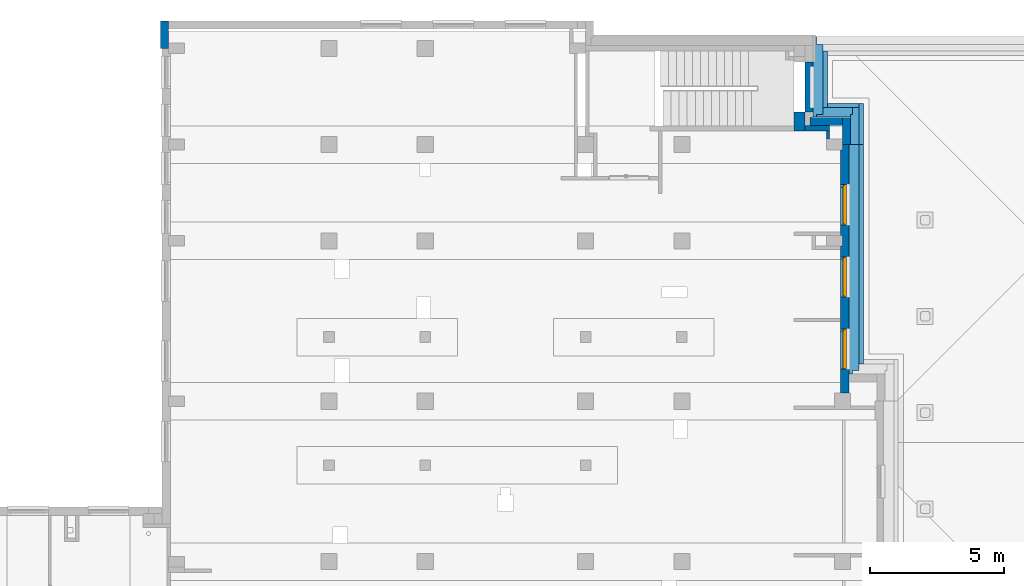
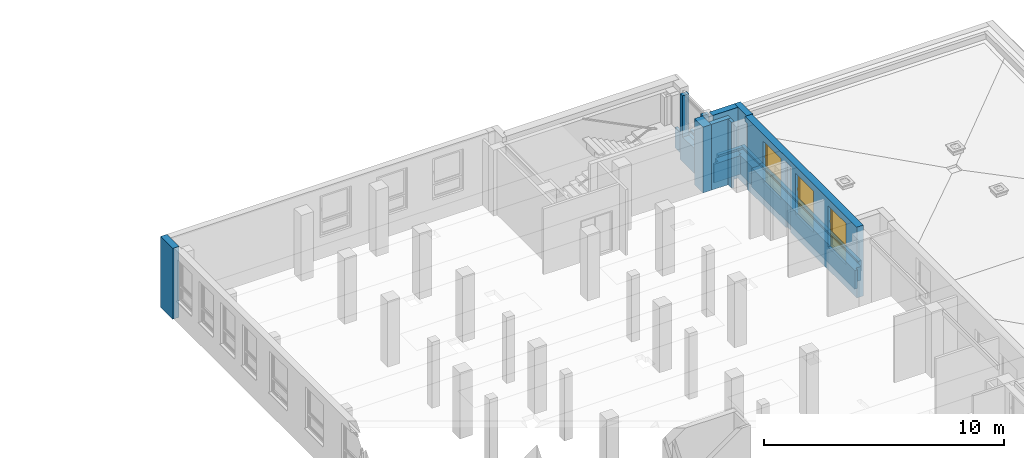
# One storey, part 29 of 50: 12 walls, 3 windows, 4 openings.
"""IFC4 building model written with IfcOpenShell, lengths in metres."""

from ifc_helpers import new_model, entity, si_unit, converted_unit, derived_unit, frame, frame_2d, origin, origin_with_axes, place, context, subcontext, project, spatial, polyline, rectangle, outline, extrude, clip, bounded_halfspace, closed_shell, open_shell, surface_model, source, transform, mapped, material, layer, layer_set, layer_usage, element, fill, save


model = new_model("IFC4")

# Units and contexts
model_context = context("Model", 3, precision=1e-05, world=origin())
body_context = subcontext(model_context, "Body", "Model", "MODEL_VIEW")
ifc_project = project(units=[si_unit("LENGTHUNIT", "METRE"), si_unit("AREAUNIT", "SQUARE_METRE"), si_unit("VOLUMEUNIT", "CUBIC_METRE"), si_unit("MASSUNIT", "GRAM", prefix="KILO"), converted_unit("PLANEANGLEUNIT", "DEGREE", entity("IfcPlaneAngleMeasure", 0.0174532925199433), si_unit("PLANEANGLEUNIT", "RADIAN"), dimensions=[0, 0, 0, 0, 0, 0, 0]), derived_unit("THERMALTRANSMITTANCEUNIT", [(si_unit("POWERUNIT", "WATT"), 1), (si_unit("THERMODYNAMICTEMPERATUREUNIT", "KELVIN"), -1), (si_unit("LENGTHUNIT", "METRE"), -2)]), derived_unit("VOLUMETRICFLOWRATEUNIT", [(si_unit("LENGTHUNIT", "METRE"), 3), (converted_unit("TIMEUNIT", "hour", entity("IfcTimeMeasure", 3600.0), si_unit("TIMEUNIT", "SECOND"), dimensions=[0, 0, 1, 0, 0, 0, 0]), -1), (si_unit("LENGTHUNIT", "METRE"), -1)])], contexts=[model_context])

# Site, building, storey
site_placement = place(None, origin())
site = spatial("IfcSite", under=ifc_project, at=site_placement, Name="3. ASŘ", CompositionType="ELEMENT")
building_placement = place(site_placement, origin())
building = spatial("IfcBuilding", under=site, at=building_placement, Name="Pavilon C", CompositionType="ELEMENT")
storey_placement = place(building_placement, frame((0.0, 0.0, 3.6)))
storey = spatial("IfcBuildingStorey", under=building, at=storey_placement, Name="Půdorys 2.NP", CompositionType="ELEMENT", Elevation=3.6)

# Wall, openings, windows
ifc_material_1 = material(Name="ZELEZOBETONOVÁ KCE")
ifc_layer_1 = layer(ifc_material_1, 0.32)
ifc_layer_set_1 = layer_set([ifc_layer_1])
ifc_layer_usage_1 = layer_usage(ifc_layer_set_1, "AXIS2", "POSITIVE", 0.0)
wall_1_placement = place(storey_placement, frame((50.2, 19.5, -0.1), z_axis=(0.0, 0.0, 1.0), x_axis=(0.0, 1.0, 0.0)))
wall_1 = element("IfcWall", 1, at=wall_1_placement, inside=storey, material=ifc_layer_usage_1, Name="ZELEZOBETONOVÁ KCE", context=body_context, shape_type="Clipping", body=[
    clip(clip(extrude(rectangle(XDim=9.3, YDim=0.32, at=frame_2d((4.65, 0.16), x_axis=(1.0, 0.0))), origin_with_axes(), (0.0, 0.0, 1.0), 3.6), bounded_halfspace(frame((9.2, 0.285, 3.35), z_axis=(0.0, 0.0, 1.0), x_axis=(-5.19711258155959e-14, 1.0, 0.0)), True, origin_with_axes(), polyline([(9.3, 0.25), (9.3, 0.32), (9.1, 0.32), (9.1, 0.25), (9.3, 0.25)]))), bounded_halfspace(frame((5.7, 0.285, 3.35), z_axis=(0.0, 0.0, 1.0), x_axis=(0.0, 1.0, 0.0)), True, origin_with_axes(), polyline([(5.9, 0.25), (5.9, 0.32), (5.5, 0.32), (5.5, 0.25), (5.9, 0.25)]))),
])
opening_1_placement = place(wall_1_placement, frame((6.29999999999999, 0.0, 1.15), z_axis=(0.0, 1.0, 0.0), x_axis=(0.0, 0.0, 1.0)))
opening_1 = element("IfcOpeningElement", 2, at=opening_1_placement, cuts=wall_1, Name="Okenní otvor", ObjectType="Opening", context=body_context, shape_type="SweptSolid", body=[
    extrude(outline(polyline([(0.0, 1.5), (2.1, 1.5), (2.1, 0.0), (0.0, 0.0), (0.0, 1.5)])), origin_with_axes(), (0.0, 0.0, 1.0), 0.32),
])
opening_2_placement = place(wall_1_placement, frame((3.59999999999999, 0.0, 1.15), z_axis=(0.0, 1.0, 0.0), x_axis=(0.0, 0.0, 1.0)))
opening_2 = element("IfcOpeningElement", 3, at=opening_2_placement, cuts=wall_1, Name="Okenní otvor", ObjectType="Opening", context=body_context, shape_type="SweptSolid", body=[
    extrude(outline(polyline([(0.0, 1.5), (2.1, 1.5), (2.1, 0.0), (0.0, 0.0), (0.0, 1.5)])), origin_with_axes(), (0.0, 0.0, 1.0), 0.32),
])
opening_3_placement = place(wall_1_placement, frame((0.899999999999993, 0.0, 1.15), z_axis=(0.0, 1.0, 0.0), x_axis=(0.0, 0.0, 1.0)))
opening_3 = element("IfcOpeningElement", 4, at=opening_3_placement, cuts=wall_1, Name="Okenní otvor", ObjectType="Opening", context=body_context, shape_type="SweptSolid", body=[
    extrude(outline(polyline([(0.0, 1.5), (2.1, 1.5), (2.1, 0.0), (0.0, 0.0), (0.0, 1.5)])), origin_with_axes(), (0.0, 0.0, 1.0), 0.32),
])
shared_shape = source(origin_with_axes(), body_context, "Body", "SurfaceModel", [
    surface_model("IfcShellBasedSurfaceModel", [(0.0, 0.182, 2.1), (0.0, 0.182, -5.63337527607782e-18), (0.08, 0.182, -5.63337527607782e-18), (0.08, 0.182, 2.1), (0.0, 0.0899999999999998, 5.63337527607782e-18), (0.0, 0.0900000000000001, 2.1), (0.08, 0.0900000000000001, 2.1), (0.08, 0.0899999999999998, 5.63337527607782e-18)], [closed_shell([[[0, 1, 2, 3]], [[4, 5, 6, 7]], [[1, 0, 5, 4]], [[2, 1, 4, 7]], [[3, 2, 7, 6]], [[0, 3, 6, 5]]], orient=[[False], [False], [False], [False], [False], [False]])]),
    surface_model("IfcShellBasedSurfaceModel", [(1.42, 0.182, 2.1), (1.42, 0.182, -5.63337527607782e-18), (1.5, 0.182, -5.63337527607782e-18), (1.5, 0.182, 2.1), (1.42, 0.0899999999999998, 5.63337527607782e-18), (1.42, 0.0900000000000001, 2.1), (1.5, 0.0900000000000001, 2.1), (1.5, 0.0899999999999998, 5.63337527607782e-18)], [closed_shell([[[0, 1, 2, 3]], [[4, 5, 6, 7]], [[1, 0, 5, 4]], [[2, 1, 4, 7]], [[3, 2, 7, 6]], [[0, 3, 6, 5]]], orient=[[False], [False], [False], [False], [False], [False]])]),
    surface_model("IfcShellBasedSurfaceModel", [(0.08, 0.182, 0.08), (0.08, 0.182, -5.63337527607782e-18), (1.42, 0.182, -5.63337527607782e-18), (1.42, 0.182, 0.08), (0.08, 0.0899999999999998, 5.63337527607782e-18), (0.08, 0.0899999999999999, 0.08), (1.42, 0.0899999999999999, 0.08), (1.42, 0.0899999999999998, 5.63337527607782e-18)], [closed_shell([[[0, 1, 2, 3]], [[4, 5, 6, 7]], [[1, 0, 5, 4]], [[2, 1, 4, 7]], [[3, 2, 7, 6]], [[0, 3, 6, 5]]], orient=[[False], [False], [False], [False], [False], [False]])]),
    surface_model("IfcShellBasedSurfaceModel", [(0.08, 0.182, 2.1), (0.08, 0.182, 2.02), (1.42, 0.182, 2.02), (1.42, 0.182, 2.1), (0.08, 0.0900000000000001, 2.02), (0.08, 0.0900000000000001, 2.1), (1.42, 0.0900000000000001, 2.1), (1.42, 0.0900000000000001, 2.02)], [closed_shell([[[0, 1, 2, 3]], [[4, 5, 6, 7]], [[1, 0, 5, 4]], [[2, 1, 4, 7]], [[3, 2, 7, 6]], [[0, 3, 6, 5]]], orient=[[False], [False], [False], [False], [False], [False]])]),
    surface_model("IfcShellBasedSurfaceModel", [(0.08, 0.182, 0.76), (0.08, 0.182, 0.68), (1.42, 0.182, 0.68), (1.42, 0.182, 0.76), (0.08, 0.0899999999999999, 0.68), (0.08, 0.0899999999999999, 0.76), (1.42, 0.0899999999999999, 0.76), (1.42, 0.0899999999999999, 0.68)], [closed_shell([[[0, 1, 2, 3]], [[4, 5, 6, 7]], [[1, 0, 5, 4]], [[2, 1, 4, 7]], [[3, 2, 7, 6]], [[0, 3, 6, 5]]], orient=[[False], [False], [False], [False], [False], [False]])]),
    surface_model("IfcShellBasedSurfaceModel", [(0.05, 0.145, 0.71), (0.05, 0.145, 0.05), (0.13, 0.145, 0.05), (0.13, 0.145, 0.71), (0.05, 0.0599999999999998, 0.05), (0.05, 0.0599999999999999, 0.71), (0.13, 0.0599999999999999, 0.71), (0.13, 0.0599999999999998, 0.05)], [closed_shell([[[0, 1, 2, 3]], [[4, 5, 6, 7]], [[1, 0, 5, 4]], [[2, 1, 4, 7]], [[3, 2, 7, 6]], [[0, 3, 6, 5]]], orient=[[False], [False], [False], [False], [False], [False]])]),
    surface_model("IfcShellBasedSurfaceModel", [(1.37, 0.145, 0.71), (1.37, 0.145, 0.05), (1.45, 0.145, 0.05), (1.45, 0.145, 0.71), (1.37, 0.0599999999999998, 0.05), (1.37, 0.0599999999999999, 0.71), (1.45, 0.0599999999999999, 0.71), (1.45, 0.0599999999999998, 0.05)], [closed_shell([[[0, 1, 2, 3]], [[4, 5, 6, 7]], [[1, 0, 5, 4]], [[2, 1, 4, 7]], [[3, 2, 7, 6]], [[0, 3, 6, 5]]], orient=[[False], [False], [False], [False], [False], [False]])]),
    surface_model("IfcShellBasedSurfaceModel", [(0.13, 0.145, 0.13), (0.13, 0.145, 0.05), (1.37, 0.145, 0.05), (1.37, 0.145, 0.13), (0.13, 0.0599999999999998, 0.05), (0.13, 0.0599999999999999, 0.13), (1.37, 0.0599999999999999, 0.13), (1.37, 0.0599999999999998, 0.05)], [closed_shell([[[0, 1, 2, 3]], [[4, 5, 6, 7]], [[1, 0, 5, 4]], [[2, 1, 4, 7]], [[3, 2, 7, 6]], [[0, 3, 6, 5]]], orient=[[False], [False], [False], [False], [False], [False]])]),
    surface_model("IfcShellBasedSurfaceModel", [(0.13, 0.145, 0.71), (0.13, 0.145, 0.63), (1.37, 0.145, 0.63), (1.37, 0.145, 0.71), (0.13, 0.0599999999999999, 0.63), (0.13, 0.0599999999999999, 0.71), (1.37, 0.0599999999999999, 0.71), (1.37, 0.0599999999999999, 0.63)], [closed_shell([[[0, 1, 2, 3]], [[4, 5, 6, 7]], [[1, 0, 5, 4]], [[2, 1, 4, 7]], [[3, 2, 7, 6]], [[0, 3, 6, 5]]], orient=[[False], [False], [False], [False], [False], [False]])]),
    surface_model("IfcShellBasedSurfaceModel", [(0.05, 0.145, 2.05), (0.05, 0.145, 0.73), (0.13, 0.145, 0.73), (0.13, 0.145, 2.05), (0.05, 0.0599999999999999, 0.73), (0.05, 0.0600000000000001, 2.05), (0.13, 0.0600000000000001, 2.05), (0.13, 0.0599999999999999, 0.73)], [closed_shell([[[0, 1, 2, 3]], [[4, 5, 6, 7]], [[1, 0, 5, 4]], [[2, 1, 4, 7]], [[3, 2, 7, 6]], [[0, 3, 6, 5]]], orient=[[False], [False], [False], [False], [False], [False]])]),
    surface_model("IfcShellBasedSurfaceModel", [(1.37, 0.145, 2.05), (1.37, 0.145, 0.73), (1.45, 0.145, 0.73), (1.45, 0.145, 2.05), (1.37, 0.0599999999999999, 0.73), (1.37, 0.0600000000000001, 2.05), (1.45, 0.0600000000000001, 2.05), (1.45, 0.0599999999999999, 0.73)], [closed_shell([[[0, 1, 2, 3]], [[4, 5, 6, 7]], [[1, 0, 5, 4]], [[2, 1, 4, 7]], [[3, 2, 7, 6]], [[0, 3, 6, 5]]], orient=[[False], [False], [False], [False], [False], [False]])]),
    surface_model("IfcShellBasedSurfaceModel", [(0.13, 0.145, 0.81), (0.13, 0.145, 0.73), (1.37, 0.145, 0.73), (1.37, 0.145, 0.81), (0.13, 0.0599999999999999, 0.73), (0.13, 0.0599999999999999, 0.81), (1.37, 0.0599999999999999, 0.81), (1.37, 0.0599999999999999, 0.73)], [closed_shell([[[0, 1, 2, 3]], [[4, 5, 6, 7]], [[1, 0, 5, 4]], [[2, 1, 4, 7]], [[3, 2, 7, 6]], [[0, 3, 6, 5]]], orient=[[False], [False], [False], [False], [False], [False]])]),
    surface_model("IfcShellBasedSurfaceModel", [(0.13, 0.145, 2.05), (0.13, 0.145, 1.97), (1.37, 0.145, 1.97), (1.37, 0.145, 2.05), (0.13, 0.0600000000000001, 1.97), (0.13, 0.0600000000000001, 2.05), (1.37, 0.0600000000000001, 2.05), (1.37, 0.0600000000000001, 1.97)], [closed_shell([[[0, 1, 2, 3]], [[4, 5, 6, 7]], [[1, 0, 5, 4]], [[2, 1, 4, 7]], [[3, 2, 7, 6]], [[0, 3, 6, 5]]], orient=[[False], [False], [False], [False], [False], [False]])]),
    surface_model("IfcShellBasedSurfaceModel", [(0.0775, 0.06, 1.41), (0.0775, 0.06, 1.37), (0.1025, 0.06, 1.37), (0.1025, 0.06, 1.41), (0.0775, 0.05, 1.37), (0.0775, 0.05, 1.41), (0.1025, 0.05, 1.41), (0.1025, 0.05, 1.37)], [closed_shell([[[0, 1, 2, 3]], [[4, 5, 6, 7]], [[1, 0, 5, 4]], [[2, 1, 4, 7]], [[3, 2, 7, 6]], [[0, 3, 6, 5]]], orient=[[False], [False], [False], [False], [False], [False]])]),
    surface_model("IfcShellBasedSurfaceModel", [(0.1, 0.05, 1.39), (0.0986602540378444, 0.05, 1.395), (0.095, 0.05, 1.39866025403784), (0.09, 0.05, 1.4), (0.085, 0.05, 1.39866025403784), (0.0813397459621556, 0.05, 1.395), (0.08, 0.05, 1.39), (0.0813397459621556, 0.05, 1.385), (0.085, 0.05, 1.38133974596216), (0.09, 0.05, 1.38), (0.095, 0.05, 1.38133974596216), (0.0986602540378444, 0.05, 1.385), (0.1, 0.01, 1.39), (0.0986602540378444, 0.00500000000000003, 1.395), (0.095, 0.00133974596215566, 1.39866025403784), (0.09, 2.8421709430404e-17, 1.4), (0.085, 0.00133974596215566, 1.39866025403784), (0.0813397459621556, 0.00500000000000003, 1.395), (0.08, 0.01, 1.39), (0.0813397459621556, 0.015, 1.385), (0.085, 0.0186602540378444, 1.38133974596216), (0.09, 0.02, 1.38), (0.095, 0.0186602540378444, 1.38133974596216), (0.0986602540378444, 0.015, 1.385), (0.1, 0.01, 1.275), (0.0986602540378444, 0.005, 1.275), (0.095, 0.00133974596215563, 1.275), (0.09, 0.0, 1.275), (0.085, 0.00133974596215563, 1.275), (0.0813397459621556, 0.005, 1.275), (0.08, 0.01, 1.275), (0.0813397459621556, 0.015, 1.275), (0.085, 0.0186602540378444, 1.275), (0.09, 0.02, 1.275), (0.095, 0.0186602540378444, 1.275), (0.0986602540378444, 0.015, 1.275)], [open_shell([[[0, 1, 2, 3, 4, 5, 6, 7, 8, 9, 10, 11]], [[0, 12, 13, 1]], [[1, 13, 14, 2]], [[2, 14, 15, 3]], [[3, 15, 16, 4]], [[4, 16, 17, 5]], [[5, 17, 18, 6]], [[6, 18, 19, 7]], [[7, 19, 20, 8]], [[8, 20, 21, 9]], [[9, 21, 22, 10]], [[10, 22, 23, 11]], [[11, 23, 12, 0]], [[12, 24, 25, 13]], [[13, 25, 26, 14]], [[14, 26, 27, 15]], [[15, 27, 28, 16]], [[16, 28, 29, 17]], [[17, 29, 30, 18]], [[18, 30, 31, 19]], [[19, 31, 32, 20]], [[20, 32, 33, 21]], [[21, 33, 34, 22]], [[22, 34, 35, 23]], [[23, 35, 24, 12]]], orient=[[False], [False], [False], [False], [False], [False], [False], [False], [False], [False], [False], [False], [False], [False], [False], [False], [False], [False], [False], [False], [False], [False], [False], [False], [False]])]),
    surface_model("IfcShellBasedSurfaceModel", [(0.13, 0.1025, 0.13), (1.37, 0.1025, 0.13), (1.37, 0.1025, 0.63), (0.13, 0.1025, 0.63)], [open_shell([[[0, 1, 2, 3]]], orient=[[False]])]),
    surface_model("IfcShellBasedSurfaceModel", [(0.13, 0.1025, 0.81), (1.37, 0.1025, 0.81), (1.37, 0.1025, 1.97), (0.13, 0.1025, 1.97)], [open_shell([[[0, 1, 2, 3]]], orient=[[False]])]),
])
window_1_placement = place(opening_1_placement, frame((0.0, 1.49999999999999, 0.282000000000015), z_axis=(1.0, 0.0, 0.0), x_axis=(0.0, -1.0, 2.44929359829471e-16)))
window_1 = element("IfcWindow", 5, at=window_1_placement, inside=storey, Name="O06", OverallHeight=2.1, OverallWidth=1.5, PartitioningType="USERDEFINED", PredefinedType="WINDOW", context=body_context, shape_type="MappedRepresentation", body=[
    mapped(shared_shape, transform((0.0, 0.0, 0.0), x_axis=(1.0, 0.0, 0.0), y_axis=(0.0, 1.0, 0.0), z_axis=(0.0, 0.0, 1.0), scale=1.0)),
])
fill(opening_1, window_1)
window_2_placement = place(opening_2_placement, frame((0.0, 1.49999999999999, 0.282000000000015), z_axis=(1.0, 0.0, 0.0), x_axis=(0.0, -1.0, 2.44929359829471e-16)))
window_2 = element("IfcWindow", 6, at=window_2_placement, inside=storey, Name="O06", OverallHeight=2.1, OverallWidth=1.5, PartitioningType="USERDEFINED", PredefinedType="WINDOW", context=body_context, shape_type="MappedRepresentation", body=[
    mapped(shared_shape, transform((0.0, 0.0, 0.0), x_axis=(1.0, 0.0, 0.0), y_axis=(0.0, 1.0, 0.0), z_axis=(0.0, 0.0, 1.0), scale=1.0)),
])
fill(opening_2, window_2)
window_3_placement = place(opening_3_placement, frame((0.0, 1.49999999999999, 0.282000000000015), z_axis=(1.0, 0.0, 0.0), x_axis=(0.0, -1.0, 2.44929359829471e-16)))
window_3 = element("IfcWindow", 7, at=window_3_placement, inside=storey, Name="O06", OverallHeight=2.1, OverallWidth=1.5, PartitioningType="USERDEFINED", PredefinedType="WINDOW", context=body_context, shape_type="MappedRepresentation", body=[
    mapped(shared_shape, transform((0.0, 0.0, 0.0), x_axis=(1.0, 0.0, 0.0), y_axis=(0.0, 1.0, 0.0), z_axis=(0.0, 0.0, 1.0), scale=1.0)),
])
fill(opening_3, window_3)

# Walls
ifc_material_2 = material(Name="ZELEZOBETONOVÁ KCE")
ifc_layer_2 = layer(ifc_material_2, 0.3)
ifc_layer_set_2 = layer_set([ifc_layer_2])
ifc_layer_usage_2 = layer_usage(ifc_layer_set_2, "AXIS2", "POSITIVE", 0.0)
wall_2_placement = place(storey_placement, frame((50.25, 28.8, -0.1), z_axis=(0.0, 0.0, 1.0), x_axis=(0.0, 1.0, 0.0)))
element("IfcWall", 8, at=wall_2_placement, inside=storey, material=ifc_layer_usage_2, Name="ZELEZOBETONOVÁ KCE", context=body_context, shape_type="SweptSolid", body=[
    extrude(rectangle(XDim=1.02, YDim=0.3, at=frame_2d((0.51, 0.15), x_axis=(1.0, 0.0))), origin_with_axes(), (0.0, 0.0, 1.0), 3.6),
])
ifc_material_3 = material(Name="ZELEZOBETONOVÁ KCE")
ifc_layer_3 = layer(ifc_material_3, 0.3)
ifc_layer_set_3 = layer_set([ifc_layer_3])
ifc_layer_usage_3 = layer_usage(ifc_layer_set_3, "AXIS2", "POSITIVE", 0.0)
wall_3_placement = place(storey_placement, frame((24.75, 32.4, -0.1), z_axis=(0.0, 0.0, 1.0), x_axis=(0.0, 1.0, 0.0)))
element("IfcWall", 9, at=wall_3_placement, inside=storey, material=ifc_layer_usage_3, Name="ZELEZOBETONOVÁ KCE", context=body_context, shape_type="SweptSolid", body=[
    extrude(rectangle(XDim=1.02, YDim=0.3, at=frame_2d((0.51, 0.15), x_axis=(1.0, 0.0))), origin_with_axes(), (0.0, 0.0, 1.0), 3.6),
])
ifc_material_4 = material(Name="ZDIVO Z CDm")
ifc_layer_4 = layer(ifc_material_4, 0.22)
ifc_layer_set_4 = layer_set([ifc_layer_4])
ifc_layer_usage_4 = layer_usage(ifc_layer_set_4, "AXIS2", "POSITIVE", 0.0)
wall_4_placement = place(storey_placement, frame((48.55, 29.3, -0.1)))
element("IfcWall", 10, at=wall_4_placement, inside=storey, material=ifc_layer_usage_4, Name="ZDIVO Z CDm", context=body_context, shape_type="SweptSolid", body=[
    extrude(rectangle(XDim=0.925, YDim=0.22, at=frame_2d((0.4625, 0.11), x_axis=(1.0, 0.0))), origin_with_axes(), (0.0, 0.0, 1.0), 3.35),
])
ifc_material_5 = material(Name="ZDIVO Z CDm")
ifc_layer_5 = layer(ifc_material_5, 0.4)
ifc_layer_set_5 = layer_set([ifc_layer_5])
ifc_layer_usage_5 = layer_usage(ifc_layer_set_5, "AXIS2", "POSITIVE", 0.0)
wall_5_placement = place(storey_placement, frame((48.55, 29.3, -0.1), z_axis=(0.0, 0.0, 1.0), x_axis=(0.0, 1.0, 0.0)))
element("IfcWall", 11, at=wall_5_placement, inside=storey, material=ifc_layer_usage_5, Name="ZDIVO Z CDm", context=body_context, shape_type="SweptSolid", body=[
    extrude(rectangle(XDim=0.719999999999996, YDim=0.4, at=frame_2d((0.359999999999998, 0.2), x_axis=(1.0, 0.0))), origin_with_axes(), (0.0, 0.0, 1.0), 3.35),
])
ifc_material_6 = material(Name="ZDIVO Z CDm")
ifc_layer_6 = layer(ifc_material_6, 0.125)
ifc_layer_set_6 = layer_set([ifc_layer_6])
ifc_layer_usage_6 = layer_usage(ifc_layer_set_6, "AXIS2", "POSITIVE", 0.0)
wall_6_placement = place(storey_placement, frame((49.35, 29.3, -0.1), z_axis=(0.0, 0.0, 1.0), x_axis=(0.0, -1.0, 0.0)))
element("IfcWall", 12, at=wall_6_placement, inside=storey, material=ifc_layer_usage_6, Name="ZDIVO Z CDm", context=body_context, shape_type="SweptSolid", body=[
    extrude(rectangle(XDim=0.299999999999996, YDim=0.125, at=frame_2d((0.149999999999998, 0.0625), x_axis=(1.0, 0.0))), origin_with_axes(), (0.0, 0.0, 1.0), 3.35),
])
ifc_material_7 = material(Name="ZELEZOBETONOVÁ KCE")
ifc_layer_7 = layer(ifc_material_7, 0.3)
ifc_layer_set_7 = layer_set([ifc_layer_7])
ifc_layer_usage_7 = layer_usage(ifc_layer_set_7, "AXIS2", "POSITIVE", 0.0)
wall_7_placement = place(storey_placement, frame((49.95, 29.82, -0.1), z_axis=(0.0, 0.0, 1.0), x_axis=(-1.0, 0.0, 0.0)))
element("IfcWall", 13, at=wall_7_placement, inside=storey, material=ifc_layer_usage_7, Name="ZELEZOBETONOVÁ KCE", context=body_context, shape_type="SweptSolid", body=[
    extrude(rectangle(XDim=1.2, YDim=0.3, at=frame_2d((0.6, 0.15), x_axis=(1.0, 0.0))), origin_with_axes(), (0.0, 0.0, 1.0), 3.6),
])

# Wall, opening
ifc_material_8 = material(Name="YTONG 300")
ifc_layer_8 = layer(ifc_material_8, 0.3)
ifc_layer_set_8 = layer_set([ifc_layer_8])
ifc_layer_usage_8 = layer_usage(ifc_layer_set_8, "AXIS2", "POSITIVE", 0.0)
wall_8_placement = place(storey_placement, frame((48.85, 30.02, -0.1), z_axis=(0.0, 0.0, 1.0), x_axis=(0.0, 1.0, 0.0)))
wall_8 = element("IfcWall", 14, at=wall_8_placement, inside=storey, material=ifc_layer_usage_8, Name="YTONG 300", context=body_context, shape_type="SweptSolid", body=[
    extrude(rectangle(XDim=1.875, YDim=0.3, at=frame_2d((0.937500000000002, 0.15), x_axis=(1.0, 0.0))), origin_with_axes(), (0.0, 0.0, 1.0), 3.35),
])
opening_4_placement = place(wall_8_placement, frame((0.174999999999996, 0.0, 1.25), z_axis=(0.0, 1.0, 0.0), x_axis=(0.0, 0.0, 1.0)))
element("IfcOpeningElement", 15, at=opening_4_placement, cuts=wall_8, Name="Okenní otvor", ObjectType="Opening", context=body_context, shape_type="SweptSolid", body=[
    extrude(outline(polyline([(0.0, 1.5), (2.1, 1.5), (2.1, 0.0), (0.0, 0.0), (0.0, 1.5)])), origin_with_axes(), (0.0, 0.0, 1.0), 0.3),
])

# Walls
ifc_material_9 = material(Name="EPS")
ifc_layer_9 = layer(ifc_material_9, 0.13)
ifc_material_10 = material(Name="ZELEZOBETONOVÁ KCE")
ifc_layer_10 = layer(ifc_material_10, 0.25)
ifc_material_11 = material(Name="MINERÁLNÍ VATA")
ifc_layer_11 = layer(ifc_material_11, 0.16)
ifc_layer_set_9 = layer_set([ifc_layer_9, ifc_layer_10, ifc_layer_11])
ifc_layer_usage_9 = layer_usage(ifc_layer_set_9, "AXIS2", "POSITIVE", -0.13)
wall_9_placement = place(storey_placement, frame((50.2, 28.8, -0.2), z_axis=(0.0, 0.0, 1.0), x_axis=(0.0, -1.0, 0.0)))
element("IfcWall", 16, at=wall_9_placement, inside=storey, material=ifc_layer_usage_9, Name="MINERÁLNÍ VATA", context=body_context, shape_type="Clipping", body=[
    clip(clip(clip(extrude(outline(polyline([(-8.58, 0.0), (0.0, 0.0), (0.0, 0.13), (-0.13, 0.13), (-0.13, 0.38), (-0.38, 0.38), (-0.38, 0.54), (-8.58, 0.54), (-8.58, 0.0)])), frame((8.58, 0.0, 0.0), z_axis=(0.0, 0.0, 1.0), x_axis=(1.0, 0.0, 0.0)), (0.0, 0.0, 1.0), 1.05), bounded_halfspace(frame((4.225, 0.255, 0.25), z_axis=(0.0, 0.0, 1.0), x_axis=(0.0, -1.0, 0.0)), True, origin_with_axes(), polyline([(0.0, 0.38), (0.0, 0.13), (8.45, 0.13), (8.45, 0.38), (0.0, 0.38)]))), bounded_halfspace(frame((4.1, 0.46, 0.51), z_axis=(0.0, 0.0, 1.0), x_axis=(0.0, -1.0, 0.0)), True, origin_with_axes(), polyline([(0.0, 0.54), (0.0, 0.38), (8.2, 0.38), (8.2, 0.54), (0.0, 0.54)]))), bounded_halfspace(frame((6.03714285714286, 0.199999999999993, 0.95), z_axis=(0.0, 0.0, -1.0), x_axis=(1.0, 0.0, 0.0)), True, origin_with_axes(), polyline([(0.0, 0.0), (8.58, 0.0), (8.58, 0.13), (8.45, 0.13), (8.45, 0.38), (8.2, 0.38), (0.0, 0.38), (0.0, 0.0)]))),
])
ifc_material_12 = material(Name="EPS")
ifc_layer_12 = layer(ifc_material_12, 0.13)
ifc_material_13 = material(Name="ZELEZOBETONOVÁ KCE")
ifc_layer_13 = layer(ifc_material_13, 0.25)
ifc_material_14 = material(Name="MINERÁLNÍ VATA")
ifc_layer_14 = layer(ifc_material_14, 0.16)
ifc_layer_set_10 = layer_set([ifc_layer_12, ifc_layer_13, ifc_layer_14])
ifc_layer_usage_10 = layer_usage(ifc_layer_set_10, "AXIS2", "POSITIVE", -0.13)
wall_10_placement = place(storey_placement, frame((48.85, 32.85, -0.2), z_axis=(0.0, 0.0, 1.0), x_axis=(0.0, -1.0, 0.0)))
element("IfcWall", 17, at=wall_10_placement, inside=storey, material=ifc_layer_usage_10, Name="MINERÁLNÍ VATA", context=body_context, shape_type="Clipping", body=[
    clip(clip(clip(extrude(outline(polyline([(-3.02, 0.0), (0.0, 0.0), (0.0, 0.13), (-0.1, 0.13), (-0.1, 0.38), (-0.35, 0.38), (-0.35, 0.54), (-2.47, 0.54), (-2.47, 0.38), (-2.72, 0.38), (-2.72, 0.13), (-3.02, 0.13), (-3.02, 0.0)])), frame((3.02, 0.0, 0.0), z_axis=(0.0, 0.0, 1.0), x_axis=(1.0, 0.0, 0.0)), (0.0, 0.0, 1.0), 1.15), bounded_halfspace(frame((1.60999999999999, 0.255, 0.25), z_axis=(0.0, 0.0, 1.0), x_axis=(0.0, -1.0, 0.0)), True, origin_with_axes(), polyline([(0.3, 0.38), (0.3, 0.13), (2.91999999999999, 0.13), (2.91999999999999, 0.38), (0.3, 0.38)]))), bounded_halfspace(frame((1.60999999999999, 0.46, 0.51), z_axis=(0.0, 0.0, 1.0), x_axis=(0.0, -1.0, 0.0)), True, origin_with_axes(), polyline([(0.55, 0.54), (0.55, 0.38), (2.66999999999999, 0.38), (2.66999999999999, 0.54), (0.55, 0.54)]))), bounded_halfspace(frame((1.56999999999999, 0.203999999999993, 1.05), z_axis=(0.0, 0.0, -1.0), x_axis=(1.0, 0.0, 0.0)), True, origin_with_axes(), polyline([(0.0, 0.0), (3.02, 0.0), (3.02, 0.13), (2.91999999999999, 0.13), (2.91999999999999, 0.38), (2.66999999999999, 0.38), (0.55, 0.38), (0.3, 0.38), (0.3, 0.13), (0.0, 0.13), (0.0, 0.0)]))),
])
ifc_material_15 = material(Name="EPS")
ifc_layer_15 = layer(ifc_material_15, 0.1)
ifc_material_16 = material(Name="ZELEZOBETONOVÁ KCE")
ifc_layer_16 = layer(ifc_material_16, 0.25)
ifc_material_17 = material(Name="MINERÁLNÍ VATA")
ifc_layer_17 = layer(ifc_material_17, 0.16)
ifc_layer_set_11 = layer_set([ifc_layer_15, ifc_layer_16, ifc_layer_17])
ifc_layer_usage_11 = layer_usage(ifc_layer_set_11, "AXIS2", "POSITIVE", -0.1)
wall_11_placement = place(storey_placement, frame((48.98, 29.83, -0.2)))
element("IfcWall", 18, at=wall_11_placement, inside=storey, material=ifc_layer_usage_11, Name="MINERÁLNÍ VATA", context=body_context, shape_type="Clipping", body=[
    clip(clip(clip(extrude(outline(polyline([(0.0, 0.0), (1.27, 0.0), (1.27, 0.1), (1.35, 0.1), (1.35, 0.35), (1.6, 0.35), (1.6, 0.51), (0.41, 0.51), (0.41, 0.35), (0.25, 0.35), (0.25, 0.1), (0.0, 0.1), (0.0, 0.0)])), origin_with_axes(), (0.0, 0.0, 1.0), 1.05), bounded_halfspace(frame((0.894, 0.200000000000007, 0.25), z_axis=(0.0, 0.0, 1.0), x_axis=(0.0, -1.0, 0.0)), True, origin_with_axes(), polyline([(0.25, 0.350000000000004), (0.25, 0.100000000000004), (1.27, 0.1), (1.35, 0.100000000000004), (1.35, 0.350000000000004), (0.25, 0.350000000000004)]))), bounded_halfspace(frame((1.074, 0.414000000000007, 0.510000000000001), z_axis=(0.0, 0.0, 1.0), x_axis=(0.0, -1.0, 0.0)), True, origin_with_axes(), polyline([(0.41, 0.510000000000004), (0.41, 0.350000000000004), (1.35, 0.350000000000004), (1.6, 0.350000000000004), (1.6, 0.510000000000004), (0.41, 0.510000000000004)]))), bounded_halfspace(frame((0.683333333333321, 0.161111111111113, 0.95), z_axis=(0.0, 0.0, -1.0), x_axis=(1.0, 0.0, 0.0)), True, origin_with_axes(), polyline([(0.0, 0.0), (1.27, 0.0), (1.27, 0.1), (1.35, 0.100000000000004), (1.35, 0.350000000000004), (0.41, 0.350000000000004), (0.25, 0.350000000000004), (0.25, 0.1), (0.0, 0.1), (0.0, 0.0)]))),
])
ifc_material_18 = material(Name="EPS")
ifc_layer_18 = layer(ifc_material_18, 0.08)
ifc_material_19 = material(Name="ZELEZOBETONOVÁ KCE")
ifc_layer_19 = layer(ifc_material_19, 0.25)
ifc_material_20 = material(Name="MINERÁLNÍ VATA")
ifc_layer_20 = layer(ifc_material_20, 0.16)
ifc_layer_set_12 = layer_set([ifc_layer_18, ifc_layer_19, ifc_layer_20])
ifc_layer_usage_12 = layer_usage(ifc_layer_set_12, "AXIS2", "POSITIVE", -0.08)
wall_12_placement = place(storey_placement, frame((50.25, 29.93, -0.2), z_axis=(0.0, 0.0, 1.0), x_axis=(0.0, -1.0, 0.0)))
element("IfcWall", 19, at=wall_12_placement, inside=storey, material=ifc_layer_usage_12, Name="MINERÁLNÍ VATA", context=body_context, shape_type="Clipping", body=[
    clip(clip(clip(extrude(outline(polyline([(-1.54, 0.49), (-1.54, 0.33), (-1.38, 0.33), (-1.38, 0.08), (-1.13, 0.08), (-1.13, 0.0), (0.0, 0.0), (0.0, 0.49), (-1.54, 0.49)])), frame((1.13, 0.0, 0.0), z_axis=(0.0, 0.0, 1.0), x_axis=(1.0, 0.0, 0.0)), (0.0, 0.0, 1.0), 1.05), bounded_halfspace(frame((0.352, 0.18, 0.25), z_axis=(0.0, 0.0, 1.0), x_axis=(0.0, -1.0, 0.0)), True, origin_with_axes(), polyline([(-0.250000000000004, 0.329999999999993), (-0.250000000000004, 0.0799999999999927), (0.0, 0.08), (1.13, 0.08), (1.13, 0.329999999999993), (-0.250000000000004, 0.329999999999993)]))), bounded_halfspace(frame((0.237999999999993, 0.393999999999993, 0.510000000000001), z_axis=(0.0, 0.0, 1.0), x_axis=(0.0, -1.0, 0.0)), True, origin_with_axes(), polyline([(-0.41, 0.489999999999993), (-0.41, 0.329999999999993), (-0.250000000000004, 0.329999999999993), (1.13, 0.329999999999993), (1.13, 0.489999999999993), (-0.41, 0.489999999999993)]))), bounded_halfspace(frame((0.293333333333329, 0.136666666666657, 0.95), z_axis=(0.0, 0.0, -1.0), x_axis=(1.0, 0.0, 0.0)), True, origin_with_axes(), polyline([(0.0, 0.0), (1.13, 0.0), (1.13, 0.329999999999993), (-0.250000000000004, 0.329999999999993), (-0.250000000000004, 0.0799999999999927), (0.0, 0.08), (0.0, 0.0)]))),
])

save(model, "model.ifc")
